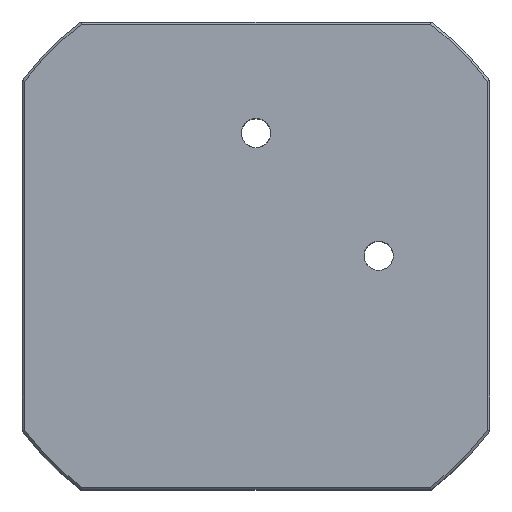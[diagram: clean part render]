
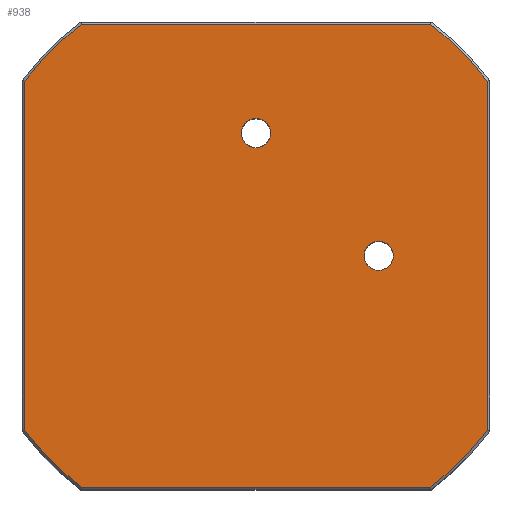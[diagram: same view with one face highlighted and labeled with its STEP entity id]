
A CAD part, top view. The second image highlights one B-rep face of the part: STEP entity #938.
In plain terms, the highlighted planar face has unit normal (0, 0, 1).
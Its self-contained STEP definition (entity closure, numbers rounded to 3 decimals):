
#56=FACE_BOUND('',#259,.T.);
#57=FACE_BOUND('',#260,.T.);
#83=LINE('',#1393,#124);
#88=LINE('',#1421,#129);
#98=LINE('',#1499,#139);
#105=LINE('',#1516,#146);
#124=VECTOR('',#1118,10.);
#129=VECTOR('',#1139,10.);
#139=VECTOR('',#1185,10.);
#146=VECTOR('',#1210,10.);
#173=PLANE('',#1034);
#201=FACE_OUTER_BOUND('',#258,.T.);
#258=EDGE_LOOP('',(#694,#695,#696,#697,#698,#699,#700,#701));
#259=EDGE_LOOP('',(#702));
#260=EDGE_LOOP('',(#703));
#301=CIRCLE('',#997,24.8);
#304=CIRCLE('',#1003,24.8);
#307=CIRCLE('',#1009,24.8);
#313=CIRCLE('',#1023,24.8);
#318=CIRCLE('',#1035,1.25);
#319=CIRCLE('',#1036,1.25);
#373=VERTEX_POINT('',#1375);
#374=VERTEX_POINT('',#1379);
#377=VERTEX_POINT('',#1389);
#381=VERTEX_POINT('',#1402);
#382=VERTEX_POINT('',#1406);
#386=VERTEX_POINT('',#1420);
#388=VERTEX_POINT('',#1428);
#403=VERTEX_POINT('',#1492);
#405=VERTEX_POINT('',#1517);
#406=VERTEX_POINT('',#1519);
#464=EDGE_CURVE('',#373,#374,#301,.T.);
#469=EDGE_CURVE('',#377,#373,#83,.T.);
#474=EDGE_CURVE('',#381,#382,#304,.T.);
#480=EDGE_CURVE('',#382,#386,#88,.T.);
#483=EDGE_CURVE('',#386,#388,#307,.T.);
#507=EDGE_CURVE('',#403,#377,#313,.T.);
#509=EDGE_CURVE('',#388,#403,#98,.T.);
#519=EDGE_CURVE('',#374,#381,#105,.T.);
#520=EDGE_CURVE('',#405,#405,#318,.T.);
#521=EDGE_CURVE('',#406,#406,#319,.T.);
#694=ORIENTED_EDGE('',*,*,#464,.F.);
#695=ORIENTED_EDGE('',*,*,#469,.F.);
#696=ORIENTED_EDGE('',*,*,#507,.F.);
#697=ORIENTED_EDGE('',*,*,#509,.F.);
#698=ORIENTED_EDGE('',*,*,#483,.F.);
#699=ORIENTED_EDGE('',*,*,#480,.F.);
#700=ORIENTED_EDGE('',*,*,#474,.F.);
#701=ORIENTED_EDGE('',*,*,#519,.F.);
#702=ORIENTED_EDGE('',*,*,#520,.T.);
#703=ORIENTED_EDGE('',*,*,#521,.T.);
#938=ADVANCED_FACE('',(#201,#56,#57),#173,.T.);
#997=AXIS2_PLACEMENT_3D('',#1380,#1111,#1112);
#1003=AXIS2_PLACEMENT_3D('',#1407,#1127,#1128);
#1009=AXIS2_PLACEMENT_3D('',#1429,#1143,#1144);
#1023=AXIS2_PLACEMENT_3D('',#1496,#1179,#1180);
#1034=AXIS2_PLACEMENT_3D('',#1515,#1208,#1209);
#1035=AXIS2_PLACEMENT_3D('',#1518,#1211,#1212);
#1036=AXIS2_PLACEMENT_3D('',#1520,#1213,#1214);
#1111=DIRECTION('center_axis',(0.,0.,-1.));
#1112=DIRECTION('ref_axis',(1.,0.,0.));
#1118=DIRECTION('',(0.,-1.,0.));
#1127=DIRECTION('center_axis',(0.,0.,-1.));
#1128=DIRECTION('ref_axis',(-1.,0.,0.));
#1139=DIRECTION('',(0.,1.,0.));
#1143=DIRECTION('center_axis',(0.,0.,-1.));
#1144=DIRECTION('ref_axis',(-1.,0.,0.));
#1179=DIRECTION('center_axis',(0.,0.,-1.));
#1180=DIRECTION('ref_axis',(1.,0.,0.));
#1185=DIRECTION('',(1.,0.,0.));
#1208=DIRECTION('center_axis',(0.,0.,1.));
#1209=DIRECTION('ref_axis',(1.,0.,0.));
#1210=DIRECTION('',(-1.,0.,0.));
#1211=DIRECTION('center_axis',(0.,0.,-1.));
#1212=DIRECTION('ref_axis',(1.,0.,0.));
#1213=DIRECTION('center_axis',(0.,0.,-1.));
#1214=DIRECTION('ref_axis',(1.,0.,0.));
#1375=CARTESIAN_POINT('',(19.8,-14.933,25.));
#1379=CARTESIAN_POINT('',(14.933,-19.8,25.));
#1380=CARTESIAN_POINT('Origin',(0.,0.,25.));
#1389=CARTESIAN_POINT('',(19.8,14.933,25.));
#1393=CARTESIAN_POINT('',(19.8,-10.,25.));
#1402=CARTESIAN_POINT('',(-14.933,-19.8,25.));
#1406=CARTESIAN_POINT('',(-19.8,-14.933,25.));
#1407=CARTESIAN_POINT('Origin',(0.,0.,25.));
#1420=CARTESIAN_POINT('',(-19.8,14.933,25.));
#1421=CARTESIAN_POINT('',(-19.8,10.,25.));
#1428=CARTESIAN_POINT('',(-14.933,19.8,25.));
#1429=CARTESIAN_POINT('Origin',(0.,0.,25.));
#1492=CARTESIAN_POINT('',(14.933,19.8,25.));
#1496=CARTESIAN_POINT('Origin',(0.,0.,25.));
#1499=CARTESIAN_POINT('',(10.,19.8,25.));
#1515=CARTESIAN_POINT('Origin',(0.,0.,25.));
#1516=CARTESIAN_POINT('',(-10.,-19.8,25.));
#1517=CARTESIAN_POINT('',(9.25,0.,25.));
#1518=CARTESIAN_POINT('Origin',(10.5,0.,25.));
#1519=CARTESIAN_POINT('',(-1.25,10.5,25.));
#1520=CARTESIAN_POINT('Origin',(0.,10.5,25.));
